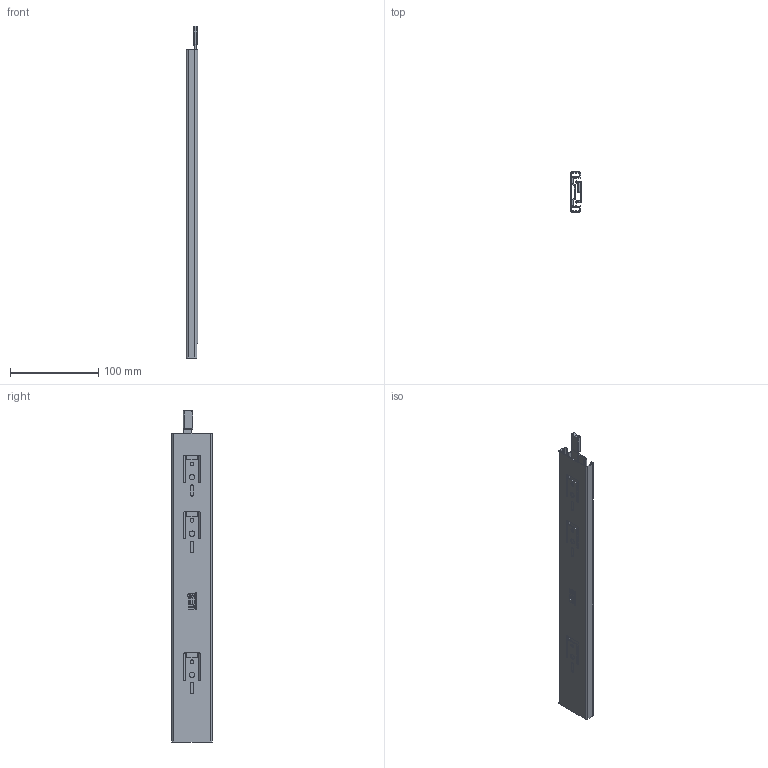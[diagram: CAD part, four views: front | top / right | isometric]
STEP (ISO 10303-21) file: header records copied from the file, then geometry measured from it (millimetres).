
FILE_DESCRIPTION (( 'STEP AP214' ), '1' );
FILE_NAME ('DSCHLD350MML-CLOSED.STEP', '2018-11-28T08:36:59', ( '' ), ( '' ), 'SwSTEP 2.0', 'SolidWorks 2017', '' );
FILE_SCHEMA (( 'AUTOMOTIVE_DESIGN' ));
Length unit declared in the file: millimetre
Products named in the file (5): DSCHLDL-2_350; DSCHLD350MML-CLOSED; DSCHLDL-4; DSCHLDL-1_350; DSCHLDL-3_350
Assembly tree (4 placements, depth 2):
  DSCHLD350MML-CLOSED
    DSCHLDL-3_350
    DSCHLDL-2_350
    DSCHLDL-1_350
    DSCHLDL-4
Bounding box: 12.71 x 45.5 x 376.1 mm (x, y, z)
Volume: 65538 mm3; surface area: 107540.8 mm2
Topology: 4 solids, 4 shells, 834 faces, 2264 edges, 1500 vertices
Faces by surface type: plane 478, bspline 237, cylinder 111, torus 4, sphere 4
Entity records: 28196 total; most frequent: CARTESIAN_POINT 8030, ORIENTED_EDGE 4520, DIRECTION 3222, EDGE_CURVE 2260, LINE 1558, VECTOR 1558, VERTEX_POINT 1500, EDGE_LOOP 946
